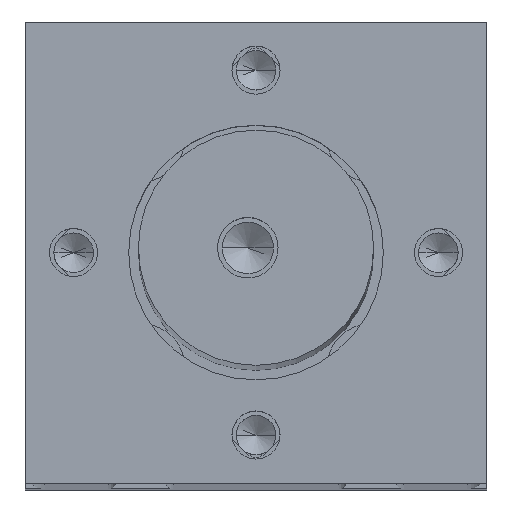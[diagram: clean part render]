
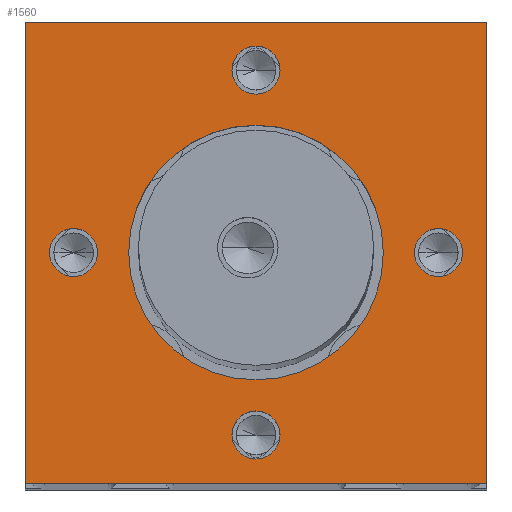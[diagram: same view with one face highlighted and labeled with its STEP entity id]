
A CAD part, top view. The second image highlights one B-rep face of the part: STEP entity #1560.
In plain terms, the highlighted planar face has unit normal (0, 0, 1).
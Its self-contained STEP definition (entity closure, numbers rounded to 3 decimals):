
#810 = CARTESIAN_POINT ( 'NONE',  ( 645.115, 131.132, 0. ) ) ;
#817 = CARTESIAN_POINT ( 'NONE',  ( 662.188, 161.281, 0. ) ) ;
#862 = VERTEX_POINT ( 'NONE', #1222 ) ;
#865 = VERTEX_POINT ( 'NONE', #1256 ) ;
#951 = VERTEX_POINT ( 'NONE', #5969 ) ;
#962 = VERTEX_POINT ( 'NONE', #5991 ) ;
#968 = VERTEX_POINT ( 'NONE', #5964 ) ;
#982 = VERTEX_POINT ( 'NONE', #5921 ) ;
#987 = VERTEX_POINT ( 'NONE', #5872 ) ;
#988 = VERTEX_POINT ( 'NONE', #5871 ) ;
#1156 = VERTEX_POINT ( 'NONE', #810 ) ;
#1161 = VERTEX_POINT ( 'NONE', #817 ) ;
#1222 = CARTESIAN_POINT ( 'NONE',  ( 670.125, 100.982, 0. ) ) ;
#1256 = CARTESIAN_POINT ( 'NONE',  ( 632.038, 131.132, 0. ) ) ;
#1560 = ADVANCED_FACE ( 'NONE', ( #2923, #2924, #2925, #2926, #2927, #2928 ), #7521, .T. ) ;
#2923 = FACE_BOUND ( 'NONE', #4967, .T. ) ;
#2924 = FACE_BOUND ( 'NONE', #4968, .T. ) ;
#2925 = FACE_BOUND ( 'NONE', #4970, .T. ) ;
#2926 = FACE_BOUND ( 'NONE', #4966, .T. ) ;
#2927 = FACE_BOUND ( 'NONE', #4964, .T. ) ;
#2928 = FACE_OUTER_BOUND ( 'NONE', #4965, .T. ) ;
#3277 = EDGE_CURVE ( 'NONE', #1161, #968, #8263, .T. ) ;
#3288 = EDGE_CURVE ( 'NONE', #962, #862, #8280, .T. ) ;
#3299 = EDGE_CURVE ( 'NONE', #987, #982, #8297, .T. ) ;
#3310 = EDGE_CURVE ( 'NONE', #865, #988, #8314, .T. ) ;
#3318 = EDGE_CURVE ( 'NONE', #1156, #951, #8326, .T. ) ;
#3320 = EDGE_CURVE ( 'NONE', #968, #1161, #8328, .T. ) ;
#3321 = EDGE_CURVE ( 'NONE', #862, #962, #8329, .T. ) ;
#3322 = EDGE_CURVE ( 'NONE', #982, #987, #8330, .T. ) ;
#3323 = EDGE_CURVE ( 'NONE', #988, #865, #8331, .T. ) ;
#3324 = EDGE_CURVE ( 'NONE', #951, #1156, #8333, .T. ) ;
#3325 = EDGE_CURVE ( 'NONE', #9791, #9790, #8332, .T. ) ;
#3326 = EDGE_CURVE ( 'NONE', #9790, #9788, #8335, .T. ) ;
#3327 = EDGE_CURVE ( 'NONE', #9788, #9786, #8337, .T. ) ;
#3328 = EDGE_CURVE ( 'NONE', #9786, #9791, #8339, .T. ) ;
#3823 = AXIS2_PLACEMENT_3D ( 'NONE', #7522, #7523, #7524 ) ;
#3960 = AXIS2_PLACEMENT_3D ( 'NONE', #9463, #9464, #9465 ) ;
#3965 = AXIS2_PLACEMENT_3D ( 'NONE', #9490, #9491, #9492 ) ;
#3970 = AXIS2_PLACEMENT_3D ( 'NONE', #9517, #9518, #9519 ) ;
#3975 = AXIS2_PLACEMENT_3D ( 'NONE', #9544, #9545, #9546 ) ;
#3979 = AXIS2_PLACEMENT_3D ( 'NONE', #9564, #9565, #9566 ) ;
#3980 = AXIS2_PLACEMENT_3D ( 'NONE', #9569, #9570, #9571 ) ;
#3981 = AXIS2_PLACEMENT_3D ( 'NONE', #9572, #9573, #9574 ) ;
#3982 = AXIS2_PLACEMENT_3D ( 'NONE', #9575, #9576, #9577 ) ;
#3983 = AXIS2_PLACEMENT_3D ( 'NONE', #9578, #9579, #9580 ) ;
#3984 = AXIS2_PLACEMENT_3D ( 'NONE', #9581, #9582, #9583 ) ;
#4964 = EDGE_LOOP ( 'NONE', ( #5425, #5424 ) ) ;
#4965 = EDGE_LOOP ( 'NONE', ( #5423, #5422, #5421, #5420 ) ) ;
#4966 = EDGE_LOOP ( 'NONE', ( #5427, #5426 ) ) ;
#4967 = EDGE_LOOP ( 'NONE', ( #5433, #5432 ) ) ;
#4968 = EDGE_LOOP ( 'NONE', ( #5431, #5430 ) ) ;
#4970 = EDGE_LOOP ( 'NONE', ( #5429, #5428 ) ) ;
#5420 = ORIENTED_EDGE ( 'NONE', *, *, #3328, .T. ) ;
#5421 = ORIENTED_EDGE ( 'NONE', *, *, #3327, .T. ) ;
#5422 = ORIENTED_EDGE ( 'NONE', *, *, #3326, .T. ) ;
#5423 = ORIENTED_EDGE ( 'NONE', *, *, #3325, .T. ) ;
#5424 = ORIENTED_EDGE ( 'NONE', *, *, #3318, .F. ) ;
#5425 = ORIENTED_EDGE ( 'NONE', *, *, #3324, .F. ) ;
#5426 = ORIENTED_EDGE ( 'NONE', *, *, #3310, .F. ) ;
#5427 = ORIENTED_EDGE ( 'NONE', *, *, #3323, .F. ) ;
#5428 = ORIENTED_EDGE ( 'NONE', *, *, #3299, .F. ) ;
#5429 = ORIENTED_EDGE ( 'NONE', *, *, #3322, .F. ) ;
#5430 = ORIENTED_EDGE ( 'NONE', *, *, #3288, .F. ) ;
#5431 = ORIENTED_EDGE ( 'NONE', *, *, #3321, .F. ) ;
#5432 = ORIENTED_EDGE ( 'NONE', *, *, #3277, .F. ) ;
#5433 = ORIENTED_EDGE ( 'NONE', *, *, #3320, .F. ) ;
#5871 = CARTESIAN_POINT ( 'NONE',  ( 639.975, 131.132, 0. ) ) ;
#5872 = CARTESIAN_POINT ( 'NONE',  ( 692.337, 131.132, 0. ) ) ;
#5921 = CARTESIAN_POINT ( 'NONE',  ( 700.275, 131.132, 0. ) ) ;
#5964 = CARTESIAN_POINT ( 'NONE',  ( 670.125, 161.281, 0. ) ) ;
#5969 = CARTESIAN_POINT ( 'NONE',  ( 687.198, 131.132, 0. ) ) ;
#5991 = CARTESIAN_POINT ( 'NONE',  ( 662.188, 100.982, 0. ) ) ;
#7099 = CARTESIAN_POINT ( 'NONE',  ( 704.256, 169.232, 0. ) ) ;
#7100 = CARTESIAN_POINT ( 'NONE',  ( 704.256, 93.032, 0. ) ) ;
#7101 = CARTESIAN_POINT ( 'NONE',  ( 628.056, 93.032, 0. ) ) ;
#7102 = CARTESIAN_POINT ( 'NONE',  ( 628.056, 169.232, 0. ) ) ;
#7521 = PLANE ( 'NONE',  #3823 ) ;
#7522 = CARTESIAN_POINT ( 'NONE',  ( 628.056, 93.032, 0. ) ) ;
#7523 = DIRECTION ( 'NONE',  ( 0., 0., 1. ) ) ;
#7524 = DIRECTION ( 'NONE',  ( 1., 0., 0. ) ) ;
#8263 = CIRCLE ( 'NONE', #3960, 3.969 ) ;
#8280 = CIRCLE ( 'NONE', #3965, 3.969 ) ;
#8297 = CIRCLE ( 'NONE', #3970, 3.969 ) ;
#8314 = CIRCLE ( 'NONE', #3975, 3.969 ) ;
#8326 = CIRCLE ( 'NONE', #3979, 21.041 ) ;
#8328 = CIRCLE ( 'NONE', #3980, 3.969 ) ;
#8329 = CIRCLE ( 'NONE', #3981, 3.969 ) ;
#8330 = CIRCLE ( 'NONE', #3982, 3.969 ) ;
#8331 = CIRCLE ( 'NONE', #3983, 3.969 ) ;
#8332 = LINE ( 'NONE', #9584, #8334 ) ;
#8333 = CIRCLE ( 'NONE', #3984, 21.041 ) ;
#8334 = VECTOR ( 'NONE', #9585, 1000. ) ;
#8335 = LINE ( 'NONE', #9586, #8336 ) ;
#8336 = VECTOR ( 'NONE', #9587, 1000. ) ;
#8337 = LINE ( 'NONE', #9588, #8338 ) ;
#8338 = VECTOR ( 'NONE', #9589, 1000. ) ;
#8339 = LINE ( 'NONE', #9590, #8340 ) ;
#8340 = VECTOR ( 'NONE', #9591, 1000. ) ;
#9463 = CARTESIAN_POINT ( 'NONE',  ( 666.156, 161.281, 0. ) ) ;
#9464 = DIRECTION ( 'NONE',  ( 0., 0., 1. ) ) ;
#9465 = DIRECTION ( 'NONE',  ( 1., 0., 0. ) ) ;
#9490 = CARTESIAN_POINT ( 'NONE',  ( 666.156, 100.982, 0. ) ) ;
#9491 = DIRECTION ( 'NONE',  ( 0., 0., 1. ) ) ;
#9492 = DIRECTION ( 'NONE',  ( 1., 0., 0. ) ) ;
#9517 = CARTESIAN_POINT ( 'NONE',  ( 696.306, 131.132, 0. ) ) ;
#9518 = DIRECTION ( 'NONE',  ( 0., 0., 1. ) ) ;
#9519 = DIRECTION ( 'NONE',  ( 1., 0., 0. ) ) ;
#9544 = CARTESIAN_POINT ( 'NONE',  ( 636.007, 131.132, 0. ) ) ;
#9545 = DIRECTION ( 'NONE',  ( 0., 0., 1. ) ) ;
#9546 = DIRECTION ( 'NONE',  ( 1., 0., 0. ) ) ;
#9564 = CARTESIAN_POINT ( 'NONE',  ( 666.156, 131.132, 0. ) ) ;
#9565 = DIRECTION ( 'NONE',  ( 0., 0., 1. ) ) ;
#9566 = DIRECTION ( 'NONE',  ( 1., 0., 0. ) ) ;
#9569 = CARTESIAN_POINT ( 'NONE',  ( 666.156, 161.281, 0. ) ) ;
#9570 = DIRECTION ( 'NONE',  ( 0., 0., 1. ) ) ;
#9571 = DIRECTION ( 'NONE',  ( 1., 0., 0. ) ) ;
#9572 = CARTESIAN_POINT ( 'NONE',  ( 666.156, 100.982, 0. ) ) ;
#9573 = DIRECTION ( 'NONE',  ( 0., 0., 1. ) ) ;
#9574 = DIRECTION ( 'NONE',  ( 1., 0., 0. ) ) ;
#9575 = CARTESIAN_POINT ( 'NONE',  ( 696.306, 131.132, 0. ) ) ;
#9576 = DIRECTION ( 'NONE',  ( 0., 0., 1. ) ) ;
#9577 = DIRECTION ( 'NONE',  ( 1., 0., 0. ) ) ;
#9578 = CARTESIAN_POINT ( 'NONE',  ( 636.007, 131.132, 0. ) ) ;
#9579 = DIRECTION ( 'NONE',  ( 0., 0., 1. ) ) ;
#9580 = DIRECTION ( 'NONE',  ( 1., 0., 0. ) ) ;
#9581 = CARTESIAN_POINT ( 'NONE',  ( 666.156, 131.132, 0. ) ) ;
#9582 = DIRECTION ( 'NONE',  ( 0., 0., 1. ) ) ;
#9583 = DIRECTION ( 'NONE',  ( 1., 0., 0. ) ) ;
#9584 = CARTESIAN_POINT ( 'NONE',  ( 628.056, 169.232, 0. ) ) ;
#9585 = DIRECTION ( 'NONE',  ( 0., -1., 0. ) ) ;
#9586 = CARTESIAN_POINT ( 'NONE',  ( 628.056, 93.032, 0. ) ) ;
#9587 = DIRECTION ( 'NONE',  ( 1., 0., 0. ) ) ;
#9588 = CARTESIAN_POINT ( 'NONE',  ( 704.256, 169.232, 0. ) ) ;
#9589 = DIRECTION ( 'NONE',  ( 0., 1., 0. ) ) ;
#9590 = CARTESIAN_POINT ( 'NONE',  ( 628.056, 169.232, 0. ) ) ;
#9591 = DIRECTION ( 'NONE',  ( -1., 0., 0. ) ) ;
#9786 = VERTEX_POINT ( 'NONE', #7099 ) ;
#9788 = VERTEX_POINT ( 'NONE', #7100 ) ;
#9790 = VERTEX_POINT ( 'NONE', #7101 ) ;
#9791 = VERTEX_POINT ( 'NONE', #7102 ) ;
